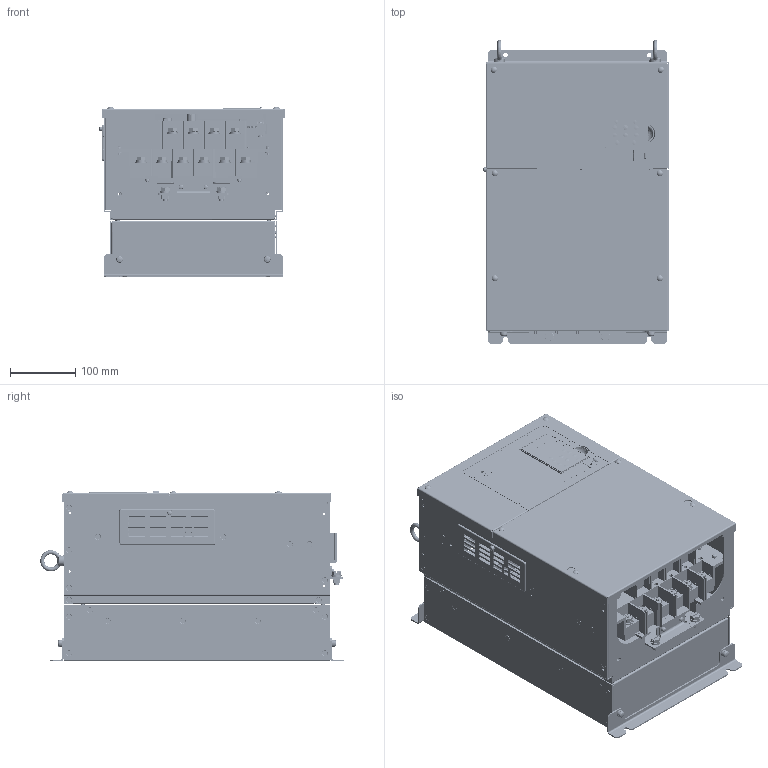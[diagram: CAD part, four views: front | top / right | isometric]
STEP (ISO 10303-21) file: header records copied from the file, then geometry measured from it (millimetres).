
FILE_DESCRIPTION((''),'2;1');
FILE_NAME('71616-AA4A0072AAA_ASM','2010-03-31T',('jc'),('YASKAWA ELECTRIC CORCORATION'),'PRO/ENGINEER BY PARAMETRIC TECHNOLOGY CORPORATION, 2008490','PRO/ENGINEER BY PARAMETRIC TECHNOLOGY CORPORATION, 2008490','');
FILE_SCHEMA(('CONFIG_CONTROL_DESIGN'));
Length unit declared in the file: millimetre
Products named in the file (128): LAY-AA4A0072AAA; ECAT31626-1; ECAT31626-2_1; ECAT31626-2_2; ECAT31626-2_ASM; ECAT31626-3_1; ECAT31626-3_2; ECAT31626-3_ASM; ECAT31626-5; ECAT31626-5_AF0; ECAT31626-5_AF1; ECAT31626-5_AF2; ECAT31626-5_AF3; ECAT31626-5_AF4; ECAT31626-5_AF5; ECAT31626-5_AF6; ECAT31626-5_AF7; ECAT31626-5_AF8; ECAT31626-5_AF9; ECAT31626-5_AF10; ECAT31626-5_AF11; ECAT31626_ASM; ECAT31629-2; ECAT31629-1; ECAT31629-3_1; ECAT31629-3_2; ECAT31629-3_ASM; ECAT31629-4_1; ECAT31629-4_2; ECAT31629-4_ASM; SPAT46011; ECAT31629-6-1; ECAT31629-6-2; ECAT31629-5_1; ECAT31629-5_2; ECAT31629-5_ASM; ECAT31629-7; ECAT31629-7_AF0; ECAT31629-7_AF1; ECAT31629-7_AF2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
Assembly tree (217 placements, depth 6):
  71616-AA4A0072AAA_ASM
    LAY-AA4A0072AAA
    ECAT31626_ASM
      ECAT31626-1
      ECAT31626-2_ASM
        ECAT31626-2_1
        ECAT31626-2_2  x4
      ECAT31626-3_ASM
        ECAT31626-3_1
        ECAT31626-3_2  x4
      ECAT31626-5  x12
      ECAT31626-5_AF0
      ECAT31626-5_AF1
      ECAT31626-5_AF2
      ECAT31626-5_AF3
      ECAT31626-5_AF4
      ECAT31626-5_AF5
      ECAT31626-5_AF6
      ECAT31626-5_AF7
      ECAT31626-5_AF8
      ECAT31626-5_AF9
      ECAT31626-5_AF10
      ECAT31626-5_AF11
    ECAT31629_ASM
      ECAT31629-2
      ECAT31629-1
      ECAT31629-3_ASM
        ECAT31629-3_1
        ECAT31629-3_2  x2
      ECAT31629-4_ASM
        ECAT31629-4_1
        ECAT31629-4_2  x2
      SPAT46011  x4
      ECAT31629-6-1
      ECAT31629-6-2
      ECAT31629-5_ASM
        ECAT31629-5_1
        ECAT31629-5_2  x2
      ECAT31629-7  x11
      ECAT31629-7_AF0
      ECAT31629-7_AF1
      ECAT31629-7_AF2
      ECAT31629-7_AF3
      ECAT31629-7_AF4
      ECAT31629-7_AF5
      ECAT31629-7_AF6
      ECAT31629-7_AF7
      ECAT31629-7_AF8
      ECAT31629-7_AF9
      ECAT31629-7_AF10
      ECAT31629-7_AF11
      ECAT31629-7_AF12
      ECAT31629-7_AF13
    MS15_M6X14  x8
    MS15_M4X10  x9
    TBET41228_ASM
      TBET41228_1
      TBET41228_2  x2
    WS30_8  x2
    WS00_8  x4
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Bounding box: 284.5 x 465.2 x 260.74 mm (x, y, z)
Volume: 2359421.5 mm3; surface area: 1806320 mm2
Topology: 315 solids, 315 shells, 13884 faces, 35686 edges, 22870 vertices
Faces by surface type: plane 10096, cylinder 2345, cone 901, bspline 226, sphere 161, torus 155
Entity records: 383917 total; most frequent: CARTESIAN_POINT 78052, ORIENTED_EDGE 63694, DIRECTION 60695, EDGE_CURVE 31847, VECTOR 26545, LINE 26545, VERTEX_POINT 20585, AXIS2_PLACEMENT_3D 17075
